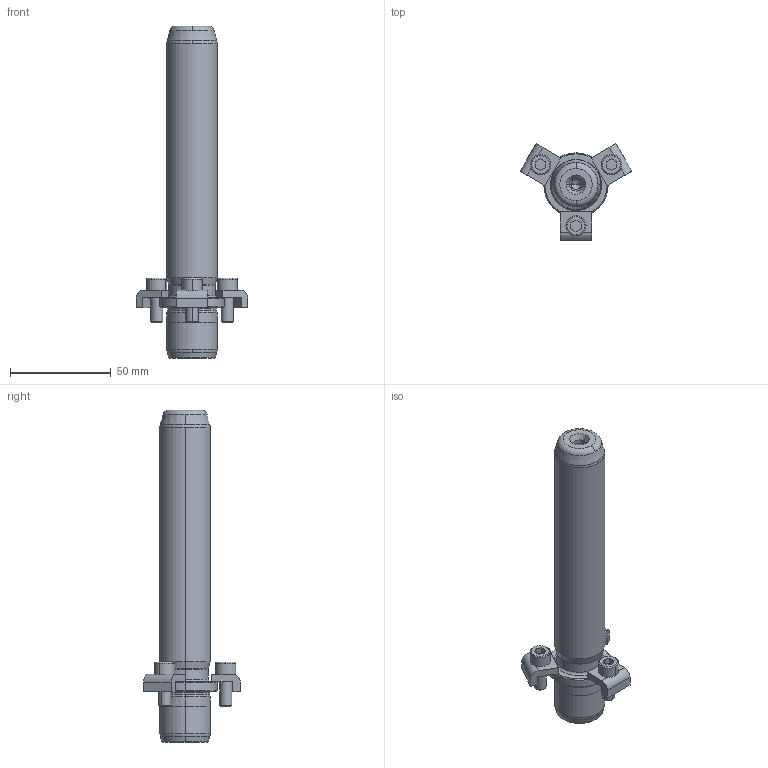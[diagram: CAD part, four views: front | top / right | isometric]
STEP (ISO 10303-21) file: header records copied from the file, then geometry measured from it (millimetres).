
FILE_DESCRIPTION((''),'2;1');
FILE_NAME('P21_025_140.stp','2008-12-23T09:50:26',(''),(''),'Mechanical Desktop 2009','Mechanical Desktop 2009',', , ');
FILE_SCHEMA(('CONFIG_CONTROL_DESIGN'));
Length unit declared in the file: millimetre
Products named in the file (2): Product; blmdl1
Assembly tree (1 placements, depth 2):
  Product
    blmdl1
Bounding box: 55.58 x 48.13 x 165 mm (x, y, z)
Volume: 85391.8 mm3; surface area: 19591.5 mm2
Topology: 7 solids, 7 shells, 163 faces, 417 edges, 269 vertices
Faces by surface type: plane 59, cylinder 44, cone 32, torus 14, bspline 14
Entity records: 5679 total; most frequent: CARTESIAN_POINT 1511, DIRECTION 914, ORIENTED_EDGE 826, EDGE_CURVE 413, AXIS2_PLACEMENT_3D 362, VERTEX_POINT 269, CIRCLE 211, VECTOR 190
